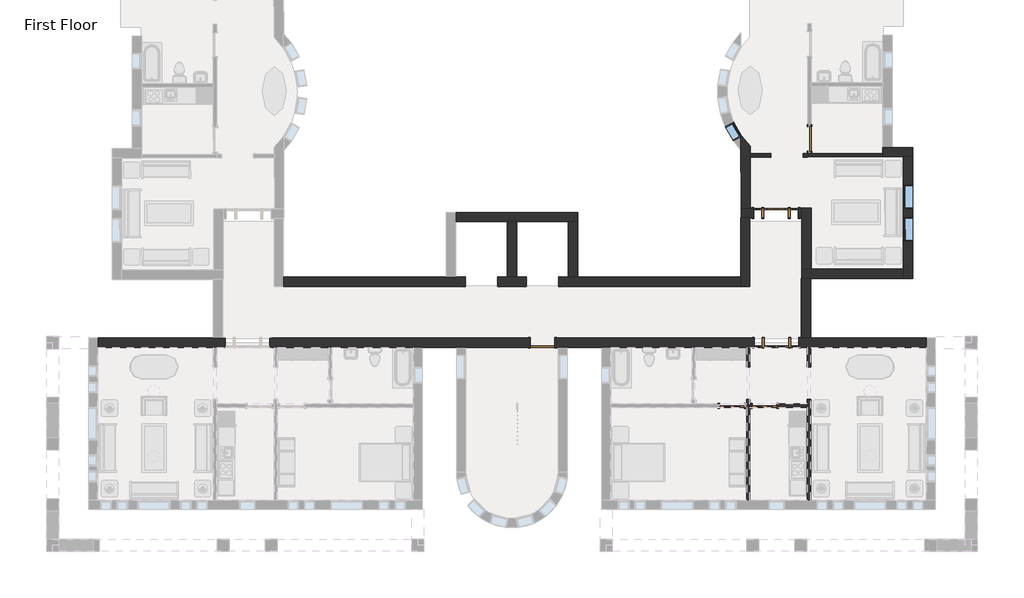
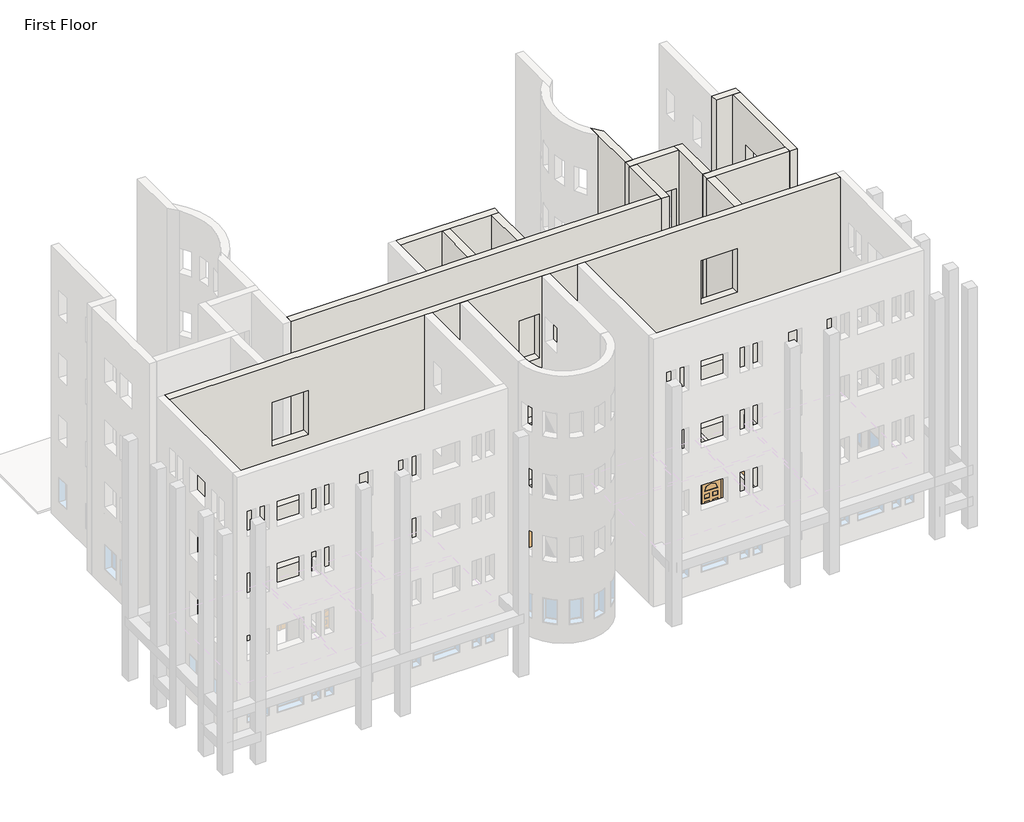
# One storey, part 6 of 21: 18 walls, 6 doors, 3 windows.
"""IFC4 building model written with IfcOpenShell, lengths in millimetres."""

from ifc_helpers import new_model, si_unit, frame, origin, origin_with_axes, place, context, project, spatial, polyline, circle_curve, outline, extrude, faceted_brep, transform, mapped, element, save
from ifc_brep_helpers import plane_surface, revolved_surface, advanced_brep
from components import door_829da954, door_2e3b4da2, door_cc5399a4, door_a1797ceb, door_dba5aa2e, door_ffdb1193, window_ed80354a, window_15c49d37

model = new_model("IFC4")

# Units and contexts
model_context = context("Model", 3, world=origin())
ifc_project = project(units=[si_unit("LENGTHUNIT", "METRE", prefix="MILLI")], contexts=[model_context])

# Site, building, storey
site = spatial("IfcSite", under=ifc_project)
building = spatial("IfcBuilding", under=site)
storey = spatial("IfcBuildingStorey", under=building, Name="First Floor", Elevation=0.0)

# Doors
placement = place(None, origin())
door_shape = door_829da954(model_context)
element("IfcDoor", 1, ObjectType="Single-Decorative 2 : 36\" x 84\"", at=placement, inside=storey, context=model_context, shape_type="MappedRepresentation", body=[
    mapped(door_shape, transform((-6669.0589563, -30331.8808133, 0.0), x_axis=(1.0, 0.0, 0.0), y_axis=(0.0, 1.0, 0.0), z_axis=(0.0, 0.0, 1.0))),
])
door_2_shape = door_2e3b4da2(model_context)
element("IfcDoor", 2, ObjectType="Single-Decorative 2 : 36\" x 84\"", at=placement, inside=storey, context=model_context, shape_type="MappedRepresentation", body=[
    mapped(door_2_shape, transform((-5449.8589563, -30331.8808133, 0.0), x_axis=(-1.0, 0.0, 0.0), y_axis=(0.0, -1.0, 0.0), z_axis=(0.0, 0.0, 1.0))),
])
door_3_shape = door_cc5399a4(model_context)
element("IfcDoor", 3, ObjectType="Single-Flush : 36\" x 84\"", at=placement, inside=storey, context=model_context, shape_type="MappedRepresentation", body=[
    mapped(door_3_shape, transform((-13792.1714563, -27958.5683133, 0.0), x_axis=(1.0, 0.0, 0.0), y_axis=(0.0, 1.0, 0.0), z_axis=(0.0, 0.0, 1.0))),
])
door_4_shape = door_a1797ceb(model_context)
element("IfcDoor", 4, ObjectType="Single-Flush : 36\" x 84\"", at=placement, inside=storey, context=model_context, shape_type="MappedRepresentation", body=[
    mapped(door_4_shape, transform((-3758.0899582, -20299.7140595, 0.0), x_axis=(0.0007588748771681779, -0.9999997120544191, 0.0), y_axis=(0.9999997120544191, 0.0007588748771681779, 0.0), z_axis=(0.0, 0.0, 1.0))),
])
door_5_shape = door_dba5aa2e(model_context)
element("IfcDoor", 5, ObjectType="Single-Raised Panel with Sidelights : 36\" x 84\"", at=placement, inside=storey, context=model_context, shape_type="MappedRepresentation", body=[
    mapped(door_5_shape, transform((-5011.6902332, -23083.5536869, 0.0), x_axis=(-0.9999997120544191, -0.0007588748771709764, 0.0), y_axis=(0.0007588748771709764, -0.9999997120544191, 0.0), z_axis=(0.0, 0.0, 1.0))),
])
door_6_shape = door_ffdb1193(model_context)
element("IfcDoor", 6, ObjectType="Single-Raised Panel with Sidelights : 36\" x 84\"", at=placement, inside=storey, context=model_context, shape_type="MappedRepresentation", body=[
    mapped(door_6_shape, transform((-4992.6589563, -27958.5683133, 0.0), x_axis=(-1.0, 0.0, 0.0), y_axis=(0.0, -1.0, 0.0), z_axis=(0.0, 0.0, 1.0))),
])

# Walls
element("IfcWall", 7, ObjectType="Exterior - Brick on Mtl. Stud", at=placement, inside=storey, context=model_context, shape_type="Brep", body=[
    faceted_brep([(-5830.8589563, -28134.7808133, 0.0), (-5995.9589563, -28134.7808133, 0.0), (-6122.9589563, -28134.7808133, 0.0), (-8042.2464563, -28134.7808133, 0.0), (-8169.2464563, -28134.7808133, 0.0), (-11217.2464563, -28134.7808133, 0.0), (-11569.6714563, -28134.7808133, 0.0), (-12853.9589563, -28134.7808133, 0.0), (-13206.3839563, -28134.7808133, 0.0), (-13334.9714563, -28134.7808133, 0.0), (-13334.9714563, -27782.3558133, 0.0), (-5830.8589563, -27782.3558133, 0.0), (-4154.4589563, -27782.3558133, 0.0), (-4062.3839563, -27782.3558133, 0.0), (-3709.9589563, -27782.3558133, 0.0), (622.3285437, -27782.3558133, 0.0), (622.3285437, -28134.7808133, 0.0), (-3709.9589563, -28134.7808133, 0.0), (-3836.9589563, -28134.7808133, 0.0), (-4154.4589563, -28134.7808133, 0.0), (-14249.3714563, -28134.7808133, 0.0), (-16663.9589563, -28134.7808133, 0.0), (-17016.3839563, -28134.7808133, 0.0), (-18300.6714563, -28134.7808133, 0.0), (-18653.0964563, -28134.7808133, 0.0), (-21701.0964563, -28134.7808133, 0.0), (-21828.0964563, -28134.7808133, 0.0), (-23747.3839563, -28134.7808133, 0.0), (-23874.3839563, -28134.7808133, 0.0), (-24039.4839563, -28134.7808133, 0.0), (-24039.4839563, -27782.3558133, 0.0), (-14249.3714563, -27782.3558133, 0.0), (-25715.8839563, -28134.7808133, 0.0), (-26033.3839563, -28134.7808133, 0.0), (-26160.3839563, -28134.7808133, 0.0), (-30492.6714563, -28134.7808133, 0.0), (-30492.6714563, -27782.3558133, 0.0), (-26160.3839563, -27782.3558133, 0.0), (-25807.9589563, -27782.3558133, 0.0), (-25715.8839563, -27782.3558133, 0.0), (622.3285437, -27782.3558133, 13106.4), (-3709.9589563, -27782.3558133, 13106.4), (-4062.3839563, -27782.3558133, 13106.4), (-25807.9589563, -27782.3558133, 13106.4), (-26160.3839563, -27782.3558133, 13106.4), (-30492.6714563, -27782.3558133, 13106.4), (-30492.6714563, -28134.7808133, 13106.4), (-18653.0964563, -28134.7808133, 13106.4), (-18300.6714563, -28134.7808133, 13106.4), (-17016.3839563, -28134.7808133, 13106.4), (-16663.9589563, -28134.7808133, 13106.4), (-13206.3839563, -28134.7808133, 13106.4), (-12853.9589563, -28134.7808133, 13106.4), (-11569.6714563, -28134.7808133, 13106.4), (-11217.2464563, -28134.7808133, 13106.4), (622.3285437, -28134.7808133, 13106.4), (-24039.4839563, -27782.3558133, 2133.6), (-25715.8839563, -27782.3558133, 2133.6), (-4154.4589563, -27782.3558133, 2133.6), (-5830.8589563, -27782.3558133, 2133.6), (-13334.9714563, -27782.3558133, 2133.6), (-14249.3714563, -27782.3558133, 2133.6), (-25715.8839563, -27782.3558133, 6096.0), (-24039.4839563, -27782.3558133, 6096.0), (-24039.4839563, -27782.3558133, 8229.6), (-25715.8839563, -27782.3558133, 8229.6), (-25715.8839563, -27782.3558133, 3048.0), (-24039.4839563, -27782.3558133, 3048.0), (-24039.4839563, -27782.3558133, 5181.6), (-25715.8839563, -27782.3558133, 5181.6), (-25715.8839563, -27782.3558133, 9144.0), (-24039.4839563, -27782.3558133, 9144.0), (-24039.4839563, -27782.3558133, 11277.6), (-25715.8839563, -27782.3558133, 11277.6), (-14249.3714563, -27782.3558133, 6096.0), (-13334.9714563, -27782.3558133, 6096.0), (-13334.9714563, -27782.3558133, 8229.6), (-14249.3714563, -27782.3558133, 8229.6), (-14249.3714563, -27782.3558133, 3048.0), (-13334.9714563, -27782.3558133, 3048.0), (-13334.9714563, -27782.3558133, 5181.6), (-14249.3714563, -27782.3558133, 5181.6), (-14249.3714563, -27782.3558133, 9144.0), (-13334.9714563, -27782.3558133, 9144.0), (-13334.9714563, -27782.3558133, 11277.6), (-14249.3714563, -27782.3558133, 11277.6), (-4154.4589563, -27782.3558133, 6096.0), (-4154.4589563, -27782.3558133, 8229.6), (-5830.8589563, -27782.3558133, 8229.6), (-5830.8589563, -27782.3558133, 6096.0), (-4154.4589563, -27782.3558133, 3048.0), (-4154.4589563, -27782.3558133, 5181.6), (-5830.8589563, -27782.3558133, 5181.6), (-5830.8589563, -27782.3558133, 3048.0), (-4154.4589563, -27782.3558133, 9144.0), (-4154.4589563, -27782.3558133, 11277.6), (-5830.8589563, -27782.3558133, 11277.6), (-5830.8589563, -27782.3558133, 9144.0), (-24039.4839563, -28134.7808133, 2133.6), (-14249.3714563, -28134.7808133, 2133.6), (-13334.9714563, -28134.7808133, 2133.6), (-5830.8589563, -28134.7808133, 2133.6), (-4154.4589563, -28134.7808133, 2133.6), (-25715.8839563, -28134.7808133, 2133.6), (-25715.8839563, -28134.7808133, 6096.0), (-25715.8839563, -28134.7808133, 8229.6), (-24039.4839563, -28134.7808133, 8229.6), (-24039.4839563, -28134.7808133, 6096.0), (-25715.8839563, -28134.7808133, 3048.0), (-25715.8839563, -28134.7808133, 5181.6), (-24039.4839563, -28134.7808133, 5181.6), (-24039.4839563, -28134.7808133, 3048.0), (-25715.8839563, -28134.7808133, 9144.0), (-25715.8839563, -28134.7808133, 11277.6), (-24039.4839563, -28134.7808133, 11277.6), (-24039.4839563, -28134.7808133, 9144.0), (-14249.3714563, -28134.7808133, 6096.0), (-14249.3714563, -28134.7808133, 8229.6), (-13334.9714563, -28134.7808133, 8229.6), (-13334.9714563, -28134.7808133, 6096.0), (-14249.3714563, -28134.7808133, 3048.0), (-14249.3714563, -28134.7808133, 5181.6), (-13334.9714563, -28134.7808133, 5181.6), (-13334.9714563, -28134.7808133, 3048.0), (-14249.3714563, -28134.7808133, 9144.0), (-14249.3714563, -28134.7808133, 11277.6), (-13334.9714563, -28134.7808133, 11277.6), (-13334.9714563, -28134.7808133, 9144.0), (-4154.4589563, -28134.7808133, 6096.0), (-5830.8589563, -28134.7808133, 6096.0), (-5830.8589563, -28134.7808133, 8229.6), (-4154.4589563, -28134.7808133, 8229.6), (-4154.4589563, -28134.7808133, 3048.0), (-5830.8589563, -28134.7808133, 3048.0), (-5830.8589563, -28134.7808133, 5181.6), (-4154.4589563, -28134.7808133, 5181.6), (-4154.4589563, -28134.7808133, 9144.0), (-5830.8589563, -28134.7808133, 9144.0), (-5830.8589563, -28134.7808133, 11277.6), (-4154.4589563, -28134.7808133, 11277.6)], [[[0, 1, 2, 3, 4, 5, 6, 7, 8, 9, 10, 11]], [[12, 13, 14, 15, 16, 17, 18, 19]], [[20, 21, 22, 23, 24, 25, 26, 27, 28, 29, 30, 31]], [[32, 33, 34, 35, 36, 37, 38, 39]], [[40, 41, 42, 43, 44, 45, 46, 47, 48, 49, 50, 51, 52, 53, 54, 55]], [[31, 30, 56, 57, 39, 38, 37, 36, 45, 44, 43, 42, 41, 40, 15, 14, 13, 12, 58, 59, 11, 10, 60, 61], [62, 63, 64, 65], [66, 67, 68, 69], [70, 71, 72, 73], [74, 75, 76, 77], [78, 79, 80, 81], [82, 83, 84, 85], [86, 87, 88, 89], [90, 91, 92, 93], [94, 95, 96, 97]], [[98, 29, 28, 27, 26, 25, 24, 23, 22, 21, 20, 99, 100, 9, 8, 7, 6, 5, 4, 3, 2, 1, 0, 101, 102, 19, 18, 17, 16, 55, 54, 53, 52, 51, 50, 49, 48, 47, 46, 35, 34, 33, 32, 103], [104, 105, 106, 107], [108, 109, 110, 111], [112, 113, 114, 115], [116, 117, 118, 119], [120, 121, 122, 123], [124, 125, 126, 127], [128, 129, 130, 131], [132, 133, 134, 135], [136, 137, 138, 139]], [[15, 40, 55, 16]], [[45, 36, 35, 46]], [[101, 0, 11, 59]], [[102, 101, 59, 58]], [[19, 102, 58, 12]], [[60, 10, 9, 100]], [[61, 60, 100, 99]], [[31, 61, 99, 20]], [[56, 30, 29, 98]], [[57, 56, 98, 103]], [[39, 57, 103, 32]], [[63, 62, 104, 107]], [[64, 63, 107, 106]], [[65, 64, 106, 105]], [[62, 65, 105, 104]], [[67, 66, 108, 111]], [[68, 67, 111, 110]], [[69, 68, 110, 109]], [[66, 69, 109, 108]], [[71, 70, 112, 115]], [[72, 71, 115, 114]], [[73, 72, 114, 113]], [[70, 73, 113, 112]], [[75, 74, 116, 119]], [[76, 75, 119, 118]], [[77, 76, 118, 117]], [[74, 77, 117, 116]], [[79, 78, 120, 123]], [[80, 79, 123, 122]], [[81, 80, 122, 121]], [[78, 81, 121, 120]], [[83, 82, 124, 127]], [[84, 83, 127, 126]], [[85, 84, 126, 125]], [[82, 85, 125, 124]], [[129, 128, 86, 89]], [[130, 129, 89, 88]], [[131, 130, 88, 87]], [[128, 131, 87, 86]], [[133, 132, 90, 93]], [[134, 133, 93, 92]], [[135, 134, 92, 91]], [[132, 135, 91, 90]], [[137, 136, 94, 97]], [[138, 137, 97, 96]], [[139, 138, 96, 95]], [[136, 139, 95, 94]]]),
])
element("IfcWall", 8, ObjectType="Exterior - Brick on Mtl. Stud", at=placement, inside=storey, context=model_context, shape_type="Brep", body=[
    faceted_brep([(-17044.9589563, -23410.3808133, 0.0), (-15111.3839563, -23410.3808133, 0.0), (-14758.9589563, -23410.3808133, 0.0), (-12825.3839563, -23410.3808133, 0.0), (-12472.9589563, -23410.3808133, 0.0), (-12472.9589563, -23410.3808133, 13106.4), (-12825.3839563, -23410.3808133, 13106.4), (-14758.9589563, -23410.3808133, 13106.4), (-15111.3839563, -23410.3808133, 13106.4), (-17044.9589563, -23410.3808133, 13106.4), (-17044.9589563, -23057.9558133, 0.0), (-17044.9589563, -23057.9558133, 13106.4), (-12472.9589563, -23057.9558133, 13106.4), (-12472.9589563, -23057.9558133, 0.0)], [[[0, 1, 2, 3, 4, 5, 6, 7, 8, 9]], [[10, 11, 12, 13]], [[4, 3, 2, 1, 0, 10, 13]], [[9, 8, 7, 6, 5, 12, 11]], [[5, 4, 13, 12]], [[0, 9, 11, 10]]]),
])
element("IfcWall", 9, ObjectType="Exterior - Brick on Mtl. Stud", at=placement, inside=storey, context=model_context, shape_type="SweptSolid", body=[
    extrude(outline(polyline([(-12825.3839563, -25496.3558133), (-12825.3839563, -23410.3808133), (-12472.9589563, -23410.3808133), (-12472.9589563, -25496.3558133), (-12825.3839563, -25496.3558133)])), origin_with_axes(), (0.0, 0.0, 1.0), 13106.4),
])
element("IfcWall", 10, ObjectType="Exterior - Brick on Mtl. Stud", at=placement, inside=storey, context=model_context, shape_type="Brep", body=[
    faceted_brep([(-23521.9589563, -25496.3558133, 0.0), (-17397.3839563, -25496.3558133, 0.0), (-17044.9589563, -25496.3558133, 0.0), (-16687.7714563, -25496.3558133, 0.0), (-16687.7714563, -25848.7808133, 0.0), (-23521.9589563, -25848.7808133, 0.0), (-15468.5714563, -25496.3558133, 0.0), (-15111.3839563, -25496.3558133, 0.0), (-14758.9589563, -25496.3558133, 0.0), (-14401.7714563, -25496.3558133, 0.0), (-14401.7714563, -25848.7808133, 0.0), (-15468.5714563, -25848.7808133, 0.0), (-13182.5714563, -25496.3558133, 0.0), (-12825.3839563, -25496.3558133, 0.0), (-12472.9589563, -25496.3558133, 0.0), (-6348.3839563, -25496.3558133, 0.0), (-6348.3839563, -25848.7808133, 0.0), (-13182.5714563, -25848.7808133, 0.0), (-23521.9589563, -25848.7808133, 13106.4), (-6348.3839563, -25848.7808133, 13106.4), (-6348.3839563, -25496.3558133, 13106.4), (-12472.9589563, -25496.3558133, 13106.4), (-12825.3839563, -25496.3558133, 13106.4), (-14758.9589563, -25496.3558133, 13106.4), (-15111.3839563, -25496.3558133, 13106.4), (-17044.9589563, -25496.3558133, 13106.4), (-17397.3839563, -25496.3558133, 13106.4), (-23521.9589563, -25496.3558133, 13106.4), (-14401.7714563, -25848.7808133, 2133.6), (-13182.5714563, -25848.7808133, 2133.6), (-16687.7714563, -25848.7808133, 2133.6), (-15468.5714563, -25848.7808133, 2133.6), (-13182.5714563, -25848.7808133, 8229.6), (-13182.5714563, -25848.7808133, 6096.0), (-14401.7714563, -25848.7808133, 6096.0), (-14401.7714563, -25848.7808133, 8229.6), (-15468.5714563, -25848.7808133, 8229.6), (-15468.5714563, -25848.7808133, 6096.0), (-16687.7714563, -25848.7808133, 6096.0), (-16687.7714563, -25848.7808133, 8229.6), (-13182.5714563, -25848.7808133, 5181.6), (-13182.5714563, -25848.7808133, 3048.0), (-14401.7714563, -25848.7808133, 3048.0), (-14401.7714563, -25848.7808133, 5181.6), (-15468.5714563, -25848.7808133, 5181.6), (-15468.5714563, -25848.7808133, 3048.0), (-16687.7714563, -25848.7808133, 3048.0), (-16687.7714563, -25848.7808133, 5181.6), (-13182.5714563, -25848.7808133, 11277.6), (-13182.5714563, -25848.7808133, 9144.0), (-14401.7714563, -25848.7808133, 9144.0), (-14401.7714563, -25848.7808133, 11277.6), (-15468.5714563, -25848.7808133, 11277.6), (-15468.5714563, -25848.7808133, 9144.0), (-16687.7714563, -25848.7808133, 9144.0), (-16687.7714563, -25848.7808133, 11277.6), (-14401.7714563, -25496.3558133, 2133.6), (-15468.5714563, -25496.3558133, 2133.6), (-16687.7714563, -25496.3558133, 2133.6), (-13182.5714563, -25496.3558133, 2133.6), (-13182.5714563, -25496.3558133, 8229.6), (-14401.7714563, -25496.3558133, 8229.6), (-14401.7714563, -25496.3558133, 6096.0), (-13182.5714563, -25496.3558133, 6096.0), (-15468.5714563, -25496.3558133, 8229.6), (-16687.7714563, -25496.3558133, 8229.6), (-16687.7714563, -25496.3558133, 6096.0), (-15468.5714563, -25496.3558133, 6096.0), (-13182.5714563, -25496.3558133, 5181.6), (-14401.7714563, -25496.3558133, 5181.6), (-14401.7714563, -25496.3558133, 3048.0), (-13182.5714563, -25496.3558133, 3048.0), (-15468.5714563, -25496.3558133, 5181.6), (-16687.7714563, -25496.3558133, 5181.6), (-16687.7714563, -25496.3558133, 3048.0), (-15468.5714563, -25496.3558133, 3048.0), (-13182.5714563, -25496.3558133, 11277.6), (-14401.7714563, -25496.3558133, 11277.6), (-14401.7714563, -25496.3558133, 9144.0), (-13182.5714563, -25496.3558133, 9144.0), (-15468.5714563, -25496.3558133, 11277.6), (-16687.7714563, -25496.3558133, 11277.6), (-16687.7714563, -25496.3558133, 9144.0), (-15468.5714563, -25496.3558133, 9144.0)], [[[0, 1, 2, 3, 4, 5]], [[6, 7, 8, 9, 10, 11]], [[12, 13, 14, 15, 16, 17]], [[18, 19, 20, 21, 22, 23, 24, 25, 26, 27]], [[11, 10, 28, 29, 17, 16, 19, 18, 5, 4, 30, 31], [32, 33, 34, 35], [36, 37, 38, 39], [40, 41, 42, 43], [44, 45, 46, 47], [48, 49, 50, 51], [52, 53, 54, 55]], [[56, 9, 8, 7, 6, 57, 58, 3, 2, 1, 0, 27, 26, 25, 24, 23, 22, 21, 20, 15, 14, 13, 12, 59], [60, 61, 62, 63], [64, 65, 66, 67], [68, 69, 70, 71], [72, 73, 74, 75], [76, 77, 78, 79], [80, 81, 82, 83]], [[19, 16, 15, 20]], [[5, 18, 27, 0]], [[11, 31, 57, 6]], [[30, 4, 3, 58]], [[31, 30, 58, 57]], [[17, 29, 59, 12]], [[28, 10, 9, 56]], [[29, 28, 56, 59]], [[33, 32, 60, 63]], [[34, 33, 63, 62]], [[35, 34, 62, 61]], [[32, 35, 61, 60]], [[37, 36, 64, 67]], [[38, 37, 67, 66]], [[39, 38, 66, 65]], [[36, 39, 65, 64]], [[41, 40, 68, 71]], [[42, 41, 71, 70]], [[43, 42, 70, 69]], [[40, 43, 69, 68]], [[45, 44, 72, 75]], [[46, 45, 75, 74]], [[47, 46, 74, 73]], [[44, 47, 73, 72]], [[49, 48, 76, 79]], [[50, 49, 79, 78]], [[51, 50, 78, 77]], [[48, 51, 77, 76]], [[53, 52, 80, 83]], [[54, 53, 83, 82]], [[55, 54, 82, 81]], [[52, 55, 81, 80]]]),
])
element("IfcWall", 11, ObjectType="Exterior - Brick on Mtl. Stud", at=placement, inside=storey, context=model_context, shape_type="SweptSolid", body=[
    extrude(outline(polyline([(-15111.3839563, -25496.3558133), (-15111.3839563, -23410.3808133), (-14758.9589563, -23410.3808133), (-14758.9589563, -25496.3558133), (-15111.3839563, -25496.3558133)])), origin_with_axes(), (0.0, 0.0, 1.0), 13106.4),
])
element("IfcWall", 12, ObjectType="Exterior - Brick on Mtl. Stud", at=placement, inside=storey, context=model_context, shape_type="Brep", body=[
    faceted_brep([(-5995.9589563, -25848.7808133, 0.0), (-5995.9589563, -23260.5131746, 0.0), (-5995.9589563, -23260.5131746, 13106.4), (-5995.9589563, -25848.7808133, 13106.4), (-6348.3839563, -25848.7808133, 0.0), (-6348.3839563, -25848.7808133, 13106.4), (-6348.3839563, -25496.3558133, 13106.4), (-6348.3839563, -23260.7806212, 13106.4), (-6348.3839563, -23260.7806212, 0.0), (-6348.3839563, -25496.3558133, 0.0), (-6330.7686301, -23260.7672534, 0.0), (-6330.7686301, -23260.7672534, 13106.4)], [[[0, 1, 2, 3]], [[4, 5, 6, 7, 8, 9]], [[1, 0, 4, 9, 8, 10]], [[3, 2, 11, 7, 6, 5]], [[0, 3, 5, 4]], [[2, 1, 10, 8, 7, 11]]]),
])
element("IfcWall", 13, ObjectType="Exterior - Brick on Mtl. Stud", at=placement, inside=storey, context=model_context, shape_type="Brep", body=[
    faceted_brep([(-4062.3839563, -25545.046491, 0.0), (-4062.3839563, -27782.3558133, 0.0), (-4062.3839563, -27782.3558133, 13106.4), (-4062.3839563, -25545.046491, 13106.4), (-3709.9589563, -25544.7790444, 0.0), (-3709.9589563, -25544.7790444, 13106.4), (-3709.9589563, -27782.3558133, 13106.4), (-3709.9589563, -27782.3558133, 0.0), (-4043.0345004, -25545.0318071, 0.0), (-4043.0345004, -25545.0318071, 13106.4)], [[[0, 1, 2, 3]], [[4, 5, 6, 7]], [[1, 0, 8, 4, 7]], [[3, 2, 6, 5, 9]], [[2, 1, 7, 6]], [[0, 3, 9, 5, 4, 8]]]),
])
element("IfcWall", 14, ObjectType="Exterior - Brick on Mtl. Stud", at=placement, inside=storey, context=model_context, shape_type="Brep", body=[
    faceted_brep([(-233.303044, -25189.7155953, 0.0), (-3690.8770484, -25192.3394621, 0.0), (-4043.3019469, -25192.6069086, 0.0), (-4043.3019469, -25192.6069086, 13106.4), (-3690.8770484, -25192.3394621, 13106.4), (-233.303044, -25189.7155953, 13106.4), (-233.0355975, -25542.1404939, 0.0), (-233.0355975, -25542.1404939, 13106.4), (-3709.9589563, -25544.7790444, 13106.4), (-4043.0345004, -25545.0318071, 13106.4), (-4043.0345004, -25545.0318071, 0.0), (-3709.9589563, -25544.7790444, 0.0)], [[[0, 1, 2, 3, 4, 5]], [[6, 7, 8, 9, 10, 11]], [[2, 1, 0, 6, 11, 10]], [[5, 4, 3, 9, 8, 7]], [[3, 2, 10, 9]], [[0, 5, 7, 6]]]),
])
element("IfcWall", 15, ObjectType="Exterior - Brick on Mtl. Stud", at=placement, inside=storey, context=model_context, shape_type="Brep", body=[
    faceted_brep([(-3690.8770484, -25192.3394621, 0.0), (-3692.6118363, -22906.3401204, 0.0), (-3692.6118363, -22906.3401204, 13106.4), (-3690.8770484, -25192.3394621, 13106.4), (-4043.3019469, -25192.6069086, 0.0), (-4043.3019469, -25192.6069086, 13106.4), (-4044.7692884, -23259.0324654, 13106.4), (-4045.0367349, -22906.6075669, 13106.4), (-4045.0367349, -22906.6075669, 0.0), (-4044.7692884, -23259.0324654, 0.0)], [[[0, 1, 2, 3]], [[4, 5, 6, 7, 8, 9]], [[1, 0, 4, 9, 8]], [[3, 2, 7, 6, 5]], [[2, 1, 8, 7]], [[0, 3, 5, 4]]]),
])
element("IfcWall", 16, ObjectType="Exterior - Brick on Mtl. Stud", at=placement, inside=storey, context=model_context, shape_type="Brep", body=[
    faceted_brep([(-6331.0360766, -22908.3423548, 0.0), (-5978.6111781, -22908.0749084, 0.0), (-5850.0237151, -22907.9773265, 0.0), (-5849.7562686, -23260.4022251, 0.0), (-5995.9589563, -23260.5131746, 0.0), (-6330.7686301, -23260.7672534, 0.0), (-4173.6241978, -22906.7051487, 0.0), (-4045.0367349, -22906.6075669, 0.0), (-4044.7692884, -23259.0324654, 0.0), (-4173.3567514, -23259.1300472, 0.0), (-4045.0367349, -22906.6075669, 13106.4), (-5978.6111781, -22908.0749084, 13106.4), (-6331.0360766, -22908.3423548, 13106.4), (-6330.7686301, -23260.7672534, 13106.4), (-5995.9589563, -23260.5131746, 13106.4), (-4044.7692884, -23259.0324654, 13106.4), (-5850.0237151, -22907.9773265, 2133.6), (-4173.6241978, -22906.7051487, 2133.6), (-4173.6241978, -22906.7051487, 6096.0), (-4173.6241978, -22906.7051487, 8229.6), (-5850.0237151, -22907.9773265, 8229.6), (-5850.0237151, -22907.9773265, 6096.0), (-4173.6241978, -22906.7051487, 3048.0), (-4173.6241978, -22906.7051487, 5181.6), (-5850.0237151, -22907.9773265, 5181.6), (-5850.0237151, -22907.9773265, 3048.0), (-4173.6241978, -22906.7051487, 9144.0), (-4173.6241978, -22906.7051487, 11277.6), (-5850.0237151, -22907.9773265, 11277.6), (-5850.0237151, -22907.9773265, 9144.0), (-5849.7562686, -23260.4022251, 2133.6), (-4173.3567514, -23259.1300472, 2133.6), (-4173.3567514, -23259.1300472, 6096.0), (-5849.7562686, -23260.4022251, 6096.0), (-5849.7562686, -23260.4022251, 8229.6), (-4173.3567514, -23259.1300472, 8229.6), (-4173.3567514, -23259.1300472, 3048.0), (-5849.7562686, -23260.4022251, 3048.0), (-5849.7562686, -23260.4022251, 5181.6), (-4173.3567514, -23259.1300472, 5181.6), (-4173.3567514, -23259.1300472, 9144.0), (-5849.7562686, -23260.4022251, 9144.0), (-5849.7562686, -23260.4022251, 11277.6), (-4173.3567514, -23259.1300472, 11277.6)], [[[0, 1, 2, 3, 4, 5]], [[6, 7, 8, 9]], [[10, 11, 12, 13, 14, 15]], [[16, 2, 1, 0, 12, 11, 10, 7, 6, 17], [18, 19, 20, 21], [22, 23, 24, 25], [26, 27, 28, 29]], [[5, 4, 3, 30, 31, 9, 8, 15, 14, 13], [32, 33, 34, 35], [36, 37, 38, 39], [40, 41, 42, 43]], [[7, 10, 15, 8]], [[12, 0, 5, 13]], [[30, 3, 2, 16]], [[31, 30, 16, 17]], [[9, 31, 17, 6]], [[33, 32, 18, 21]], [[34, 33, 21, 20]], [[35, 34, 20, 19]], [[32, 35, 19, 18]], [[37, 36, 22, 25]], [[38, 37, 25, 24]], [[39, 38, 24, 23]], [[36, 39, 23, 22]], [[41, 40, 26, 29]], [[42, 41, 29, 28]], [[43, 42, 28, 27]], [[40, 43, 27, 26]]]),
])
element("IfcWall", 17, ObjectType="Exterior - Brick on Mtl. Stud", at=placement, inside=storey, context=model_context, shape_type="AdvancedBrep", body=[
    advanced_brep(
    [(-5980.3834569, -20572.6724285, 0.0), (-5980.1748967, -20847.5005017, 0.0), (-5980.0785196, -20974.5004651, 0.0), (-5978.6111781, -22908.0749084, 0.0), (-6331.0360766, -22908.3423548, 0.0), (-6332.6990767, -20716.9407198, 0.0), (-6333.1224489, -20159.0462963, 0.0), (-5978.6111781, -22908.0749084, 13106.4), (-5980.3834569, -20572.6724285, 13106.4), (-6333.1224489, -20159.0462963, 13106.4), (-6332.6990767, -20716.9407198, 13106.4), (-6331.0360766, -22908.3423548, 13106.4), (-5980.3834569, -20572.6724285, 3048.0), (-5980.3834569, -20572.6724285, 6096.0), (-5980.3834569, -20572.6724285, 9144.0), (-5980.3834569, -20572.6724285, 12192.0), (-6333.1224489, -20159.0462963, 11277.6), (-6333.0850453, -20208.33453, 11277.6), (-6333.0850453, -20208.33453, 10058.4), (-6333.1224489, -20159.0462963, 10058.4), (-6333.1224489, -20159.0462963, 8229.6), (-6333.0850453, -20208.33453, 8229.6), (-6333.0850453, -20208.33453, 7010.4), (-6333.1224489, -20159.0462963, 7010.4), (-6333.1224489, -20159.0462963, 5181.6), (-6333.0850453, -20208.33453, 5181.6), (-6333.0850453, -20208.33453, 3962.4), (-6333.1224489, -20159.0462963, 3962.4), (-6333.1224489, -20159.0462963, 2133.6), (-6333.0850453, -20208.33453, 2133.6), (-6333.0850453, -20208.33453, 914.4), (-6333.1224489, -20159.0462963, 914.4), (-6327.560395, -20166.9535794, 914.4), (-6327.560395, -20166.9535794, 2133.6), (-6327.560395, -20166.9535794, 3962.4), (-6327.560395, -20166.9535794, 5181.6), (-6327.560395, -20166.9535794, 7010.4), (-6327.560395, -20166.9535794, 8229.6), (-6327.560395, -20166.9535794, 10058.4), (-6327.560395, -20166.9535794, 11277.6), (-6311.0813875, -20195.7370966, 914.4), (-6311.0813875, -20195.7370966, 2133.6), (-6311.0813875, -20195.7370966, 10058.4), (-6311.0813875, -20195.7370966, 11277.6), (-6311.0813875, -20195.7370966, 3962.4), (-6311.0813875, -20195.7370966, 5181.6), (-6311.0813875, -20195.7370966, 7010.4), (-6311.0813875, -20195.7370966, 8229.6)],
    [
        (0, 1),
        (1, 2),
        (2, 3),
        (3, 4),
        (4, 5),
        (5, 6),
        (6, 0, circle_curve(frame((-3981.4527218, -18510.7705488, 0.0), z_axis=(0.0, 0.0, 1.0), x_axis=(0.0007588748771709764, -0.9999997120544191, 0.0)), 2871.7875)),
        (7, 8),
        (8, 9, circle_curve(frame((-3981.4527218, -18510.7705488, 13106.4), z_axis=(0.0, 0.0, -1.0), x_axis=(0.0007588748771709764, -0.9999997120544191, 0.0)), 2871.7875)),
        (9, 10),
        (10, 11),
        (11, 7),
        (0, 12),
        (12, 13),
        (13, 14),
        (14, 15),
        (15, 8),
        (7, 3),
        (4, 11),
        (9, 16),
        (16, 17),
        (17, 18),
        (18, 19),
        (19, 20),
        (20, 21),
        (21, 22),
        (22, 23),
        (23, 24),
        (24, 25),
        (25, 26),
        (26, 27),
        (27, 28),
        (28, 29),
        (29, 30),
        (30, 31),
        (31, 6),
        (31, 32, circle_curve(frame((-3981.4527218, -18510.7705488, 914.4), z_axis=(0.0, 0.0, 1.0), x_axis=(0.0007588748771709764, -0.9999997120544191, 0.0)), 2871.7875)),
        (32, 33),
        (33, 28, circle_curve(frame((-3981.4527218, -18510.7705488, 2133.6), z_axis=(0.0, 0.0, -1.0), x_axis=(0.0007588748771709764, -0.9999997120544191, 0.0)), 2871.7875)),
        (27, 34, circle_curve(frame((-3981.4527218, -18510.7705488, 3962.4), z_axis=(0.0, 0.0, 1.0), x_axis=(0.0007588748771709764, -0.9999997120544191, 0.0)), 2871.7875)),
        (34, 35),
        (35, 24, circle_curve(frame((-3981.4527218, -18510.7705488, 5181.6), z_axis=(0.0, 0.0, -1.0), x_axis=(0.0007588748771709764, -0.9999997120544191, 0.0)), 2871.7875)),
        (23, 36, circle_curve(frame((-3981.4527218, -18510.7705488, 7010.4), z_axis=(0.0, 0.0, 1.0), x_axis=(0.0007588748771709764, -0.9999997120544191, 0.0)), 2871.7875)),
        (36, 37),
        (37, 20, circle_curve(frame((-3981.4527218, -18510.7705488, 8229.6), z_axis=(0.0, 0.0, -1.0), x_axis=(0.0007588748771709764, -0.9999997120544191, 0.0)), 2871.7875)),
        (19, 38, circle_curve(frame((-3981.4527218, -18510.7705488, 10058.4), z_axis=(0.0, 0.0, 1.0), x_axis=(0.0007588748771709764, -0.9999997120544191, 0.0)), 2871.7875)),
        (38, 39),
        (39, 16, circle_curve(frame((-3981.4527218, -18510.7705488, 11277.6), z_axis=(0.0, 0.0, -1.0), x_axis=(0.0007588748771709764, -0.9999997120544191, 0.0)), 2871.7875)),
        (40, 41),
        (41, 33),
        (32, 40),
        (30, 40),
        (29, 41),
        (42, 43),
        (43, 39),
        (38, 42),
        (18, 42),
        (17, 43),
        (44, 45),
        (45, 35),
        (34, 44),
        (26, 44),
        (25, 45),
        (46, 47),
        (47, 37),
        (36, 46),
        (22, 46),
        (21, 47),
    ],
    [
        plane_surface(frame((-5978.4774549, -23084.2873576, 0.0), z_axis=(0.0, 0.0, -1.0), x_axis=(-0.999999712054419, -0.0007588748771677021, 0.0))),
        plane_surface(frame((-5980.3278954, -20645.8880597, 13106.4), z_axis=(0.0, 0.0, 1.0), x_axis=(-0.999999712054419, -0.0007588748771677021, 0.0))),
        plane_surface(frame((-5978.4774549, -23084.2873576, 0.0), z_axis=(0.9999997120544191, 0.0007588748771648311, 0.0), x_axis=(-0.0007588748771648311, 0.9999997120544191, 0.0))),
        plane_surface(frame((-6330.9023534, -23084.5548041, 0.0), z_axis=(-0.9999997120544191, -0.0007588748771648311, 0.0), x_axis=(0.0007588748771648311, -0.9999997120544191, 0.0))),
        revolved_surface(polyline([(-3979.273394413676, -21382.557221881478, 0.0), (-3979.273394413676, -21382.557221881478, 13106.4)]), (-3981.4527218, -18510.7705488, 0.0), (0.0, 0.0, -1.0)),
        plane_surface(frame((-3868.8242856, -22906.4738436, 0.0), z_axis=(0.0007588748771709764, -0.9999997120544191, 0.0), x_axis=(-0.9999997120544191, -0.0007588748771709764, 0.0))),
        plane_surface(frame((-6613.9610289, -19666.7039381, 2133.6), z_axis=(-0.8678365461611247, -0.4968498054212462, 0.0), x_axis=(0.0, 0.0, 1.0))),
        plane_surface(frame((-6918.4370952, -19841.0211813, 914.4), z_axis=(0.0, 0.0, 1.0), x_axis=(0.8678365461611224, 0.49684980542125, 0.0))),
        plane_surface(frame((-6615.5574539, -20370.0543399, 914.4), z_axis=(-0.49684980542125, 0.8678365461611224, 0.0), x_axis=(0.8678365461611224, 0.49684980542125, 0.0))),
        plane_surface(frame((-6615.5574539, -20370.0543399, 2133.6), z_axis=(0.0, 0.0, -1.0), x_axis=(0.8678365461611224, 0.49684980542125, 0.0))),
        plane_surface(frame((-6613.9610289, -19666.7039381, 11277.6), z_axis=(-0.8678365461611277, -0.4968498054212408, 0.0), x_axis=(0.0, 0.0, 1.0))),
        plane_surface(frame((-6918.4370952, -19841.0211813, 10058.4), z_axis=(0.0, 0.0, 1.0000000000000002), x_axis=(0.8678365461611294, 0.4968498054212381, 0.0))),
        plane_surface(frame((-6615.5574539, -20370.0543399, 10058.4), z_axis=(-0.4968498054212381, 0.8678365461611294, 0.0), x_axis=(0.8678365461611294, 0.4968498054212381, 0.0))),
        plane_surface(frame((-6615.5574539, -20370.0543399, 11277.6), z_axis=(0.0, 0.0, -1.0000000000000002), x_axis=(0.8678365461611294, 0.4968498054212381, 0.0))),
        plane_surface(frame((-6613.9610289, -19666.7039381, 5181.6), z_axis=(-0.8678365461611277, -0.4968498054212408, 0.0), x_axis=(0.0, 0.0, 1.0))),
        plane_surface(frame((-6918.4370952, -19841.0211813, 3962.4), z_axis=(0.0, 0.0, 1.0000000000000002), x_axis=(0.8678365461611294, 0.4968498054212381, 0.0))),
        plane_surface(frame((-6615.5574539, -20370.0543399, 3962.4), z_axis=(-0.4968498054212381, 0.8678365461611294, 0.0), x_axis=(0.8678365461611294, 0.4968498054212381, 0.0))),
        plane_surface(frame((-6615.5574539, -20370.0543399, 5181.6), z_axis=(0.0, 0.0, -1.0000000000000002), x_axis=(0.8678365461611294, 0.4968498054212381, 0.0))),
        plane_surface(frame((-6613.9610289, -19666.7039381, 8229.6), z_axis=(-0.8678365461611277, -0.4968498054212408, 0.0), x_axis=(0.0, 0.0, 1.0))),
        plane_surface(frame((-6918.4370952, -19841.0211813, 7010.4), z_axis=(0.0, 0.0, 1.0000000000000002), x_axis=(0.8678365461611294, 0.4968498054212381, 0.0))),
        plane_surface(frame((-6615.5574539, -20370.0543399, 7010.4), z_axis=(-0.4968498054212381, 0.8678365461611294, 0.0), x_axis=(0.8678365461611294, 0.4968498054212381, 0.0))),
        plane_surface(frame((-6615.5574539, -20370.0543399, 8229.6), z_axis=(0.0, 0.0, -1.0000000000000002), x_axis=(0.8678365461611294, 0.4968498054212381, 0.0))),
    ],
    [
        (0, [[1, 2, 3, 4, 5, 6, 7]]),
        (1, [[8, 9, 10, 11, 12]]),
        (2, [[-3, -2, -1, 13, 14, 15, 16, 17, -8, 18]]),
        (3, [[-6, -5, 19, -11, -10, 20, 21, 22, 23, 24, 25, 26, 27, 28, 29, 30, 31, 32, 33, 34, 35, 36]]),
        (4, [[-7, -36, 37, 38, 39, -32, 40, 41, 42, -28, 43, 44, 45, -24, 46, 47, 48, -20, -9, -17, -16, -15, -14, -13]]),
        (5, [[-18, -12, -19, -4]]),
        (6, [[49, 50, -38, 51]]),
        (7, [[52, -51, -37, -35]]),
        (8, [[-49, -52, -34, 53]]),
        (9, [[-53, -33, -39, -50]]),
        (10, [[54, 55, -47, 56]]),
        (11, [[57, -56, -46, -23]]),
        (12, [[-54, -57, -22, 58]]),
        (13, [[-58, -21, -48, -55]]),
        (14, [[59, 60, -41, 61]]),
        (15, [[62, -61, -40, -31]]),
        (16, [[-59, -62, -30, 63]]),
        (17, [[-63, -29, -42, -60]]),
        (18, [[64, 65, -44, 66]]),
        (19, [[67, -66, -43, -27]]),
        (20, [[-64, -67, -26, 68]]),
        (21, [[-68, -25, -45, -65]]),
    ],
),
])
element("IfcWall", 18, ObjectType="Exterior - Brick on Mtl. Stud", at=placement, inside=storey, context=model_context, shape_type="Brep", body=[
    faceted_brep([(-998.504954, -20970.720073, 13106.4), (-998.504954, -20970.720073, 0.0), (-236.5051734, -20970.1418103, 0.0), (115.9197251, -20969.8743639, 0.0), (115.9197251, -20969.8743639, 13106.4), (-236.5051734, -20970.1418103, 13106.4), (-998.7724005, -20618.2951745, 0.0), (-998.7724005, -20618.2951745, 13106.4), (-646.347502, -20618.027728, 13106.4), (115.6522786, -20617.4494653, 13106.4), (115.6522786, -20617.4494653, 0.0), (-646.347502, -20618.027728, 0.0)], [[[0, 1, 2, 3, 4, 5]], [[6, 7, 8, 9, 10, 11]], [[3, 2, 1, 6, 11, 10]], [[0, 5, 4, 9, 8, 7]], [[0, 7, 6, 1]], [[4, 3, 10, 9]]]),
])
element("IfcWall", 19, ObjectType="Exterior - Brick on Mtl. Stud", at=placement, inside=storey, context=model_context, shape_type="Brep", body=[
    faceted_brep([(-233.0355975, -25542.1404939, 0.0), (-233.303044, -25189.7155953, 0.0), (-236.5051734, -20970.1418103, 0.0), (115.9197251, -20969.8743639, 0.0), (119.389301, -25541.8730474, 0.0), (-236.5051734, -20970.1418103, 13106.4), (-233.303044, -25189.7155953, 13106.4), (-233.0355975, -25542.1404939, 13106.4), (119.389301, -25541.8730474, 13106.4), (115.9197251, -20969.8743639, 13106.4), (-235.7136764, -22013.12901, 8229.6), (-235.0197612, -22927.5287467, 8229.6), (-235.0197612, -22927.5287467, 7010.4), (-235.7136764, -22013.12901, 7010.4), (-234.7884562, -23232.328659, 8229.6), (-234.094541, -24146.7283957, 8229.6), (-234.094541, -24146.7283957, 7010.4), (-234.7884562, -23232.328659, 7010.4), (-235.7136764, -22013.12901, 5181.6), (-235.0197612, -22927.5287467, 5181.6), (-235.0197612, -22927.5287467, 3962.4), (-235.7136764, -22013.12901, 3962.4), (-234.7884562, -23232.328659, 5181.6), (-234.094541, -24146.7283957, 5181.6), (-234.094541, -24146.7283957, 3962.4), (-234.7884562, -23232.328659, 3962.4), (-235.7136764, -22013.12901, 11277.6), (-235.0197612, -22927.5287467, 11277.6), (-235.0197612, -22927.5287467, 10058.4), (-235.7136764, -22013.12901, 10058.4), (-234.7884562, -23232.328659, 11277.6), (-234.094541, -24146.7283957, 11277.6), (-234.094541, -24146.7283957, 10058.4), (-234.7884562, -23232.328659, 10058.4), (-235.7136764, -22013.12901, 2133.6), (-235.0197612, -22927.5287467, 2133.6), (-235.0197612, -22927.5287467, 914.4), (-235.7136764, -22013.12901, 914.4), (-234.7884562, -23232.328659, 2133.6), (-234.094541, -24146.7283957, 2133.6), (-234.094541, -24146.7283957, 914.4), (-234.7884562, -23232.328659, 914.4), (116.7112221, -22012.8615635, 8229.6), (116.7112221, -22012.8615635, 7010.4), (117.4051373, -22927.2613002, 7010.4), (117.4051373, -22927.2613002, 8229.6), (117.6364424, -23232.0612125, 8229.6), (117.6364424, -23232.0612125, 7010.4), (118.3303575, -24146.4609492, 7010.4), (118.3303575, -24146.4609492, 8229.6), (116.7112221, -22012.8615635, 5181.6), (116.7112221, -22012.8615635, 3962.4), (117.4051373, -22927.2613002, 3962.4), (117.4051373, -22927.2613002, 5181.6), (117.6364424, -23232.0612125, 5181.6), (117.6364424, -23232.0612125, 3962.4), (118.3303575, -24146.4609492, 3962.4), (118.3303575, -24146.4609492, 5181.6), (116.7112221, -22012.8615635, 11277.6), (116.7112221, -22012.8615635, 10058.4), (117.4051373, -22927.2613002, 10058.4), (117.4051373, -22927.2613002, 11277.6), (117.6364424, -23232.0612125, 11277.6), (117.6364424, -23232.0612125, 10058.4), (118.3303575, -24146.4609492, 10058.4), (118.3303575, -24146.4609492, 11277.6), (116.7112221, -22012.8615635, 2133.6), (116.7112221, -22012.8615635, 914.4), (117.4051373, -22927.2613002, 914.4), (117.4051373, -22927.2613002, 2133.6), (117.6364424, -23232.0612125, 2133.6), (117.6364424, -23232.0612125, 914.4), (118.3303575, -24146.4609492, 914.4), (118.3303575, -24146.4609492, 2133.6)], [[[0, 1, 2, 3, 4]], [[5, 6, 7, 8, 9]], [[2, 1, 0, 7, 6, 5], [10, 11, 12, 13], [14, 15, 16, 17], [18, 19, 20, 21], [22, 23, 24, 25], [26, 27, 28, 29], [30, 31, 32, 33], [34, 35, 36, 37], [38, 39, 40, 41]], [[3, 9, 8, 4], [42, 43, 44, 45], [46, 47, 48, 49], [50, 51, 52, 53], [54, 55, 56, 57], [58, 59, 60, 61], [62, 63, 64, 65], [66, 67, 68, 69], [70, 71, 72, 73]], [[2, 5, 9, 3]], [[7, 0, 4, 8]], [[43, 42, 10, 13]], [[44, 43, 13, 12]], [[45, 44, 12, 11]], [[42, 45, 11, 10]], [[47, 46, 14, 17]], [[48, 47, 17, 16]], [[49, 48, 16, 15]], [[46, 49, 15, 14]], [[51, 50, 18, 21]], [[52, 51, 21, 20]], [[53, 52, 20, 19]], [[50, 53, 19, 18]], [[55, 54, 22, 25]], [[56, 55, 25, 24]], [[57, 56, 24, 23]], [[54, 57, 23, 22]], [[59, 58, 26, 29]], [[60, 59, 29, 28]], [[61, 60, 28, 27]], [[58, 61, 27, 26]], [[63, 62, 30, 33]], [[64, 63, 33, 32]], [[65, 64, 32, 31]], [[62, 65, 31, 30]], [[67, 66, 34, 37]], [[68, 67, 37, 36]], [[69, 68, 36, 35]], [[66, 69, 35, 34]], [[71, 70, 38, 41]], [[72, 71, 41, 40]], [[73, 72, 40, 39]], [[70, 73, 39, 38]]]),
])
element("IfcWall", 20, ObjectType="Interior - 5\" Partition (2-hr)", at=placement, inside=storey, context=model_context, shape_type="Brep", body=[
    faceted_brep([(-3836.9589563, -33878.3558133, 0.0), (-3836.9589563, -30395.3808133, 0.0), (-3836.9589563, -30268.3808133, 0.0), (-3836.9589563, -30092.1683133, 0.0), (-3709.9589563, -30092.1683133, 0.0), (-3709.9589563, -33878.3558133, 0.0), (-3836.9589563, -28872.9683133, 0.0), (-3836.9589563, -28134.7808133, 0.0), (-3709.9589563, -28134.7808133, 0.0), (-3709.9589563, -28872.9683133, 0.0), (-3709.9589563, -33878.3558133, 3048.0), (-3709.9589563, -28134.7808133, 3048.0), (-3836.9589563, -28134.7808133, 3048.0), (-3836.9589563, -30268.3808133, 3048.0), (-3836.9589563, -30395.3808133, 3048.0), (-3836.9589563, -33878.3558133, 3048.0), (-3709.9589563, -30092.1683133, 2133.6), (-3709.9589563, -28872.9683133, 2133.6), (-3836.9589563, -30092.1683133, 2133.6), (-3836.9589563, -28872.9683133, 2133.6)], [[[0, 1, 2, 3, 4, 5]], [[6, 7, 8, 9]], [[10, 11, 12, 13, 14, 15]], [[5, 4, 16, 17, 9, 8, 11, 10]], [[18, 3, 2, 1, 0, 15, 14, 13, 12, 7, 6, 19]], [[5, 10, 15, 0]], [[11, 8, 7, 12]], [[9, 17, 19, 6]], [[16, 4, 3, 18]], [[17, 16, 18, 19]]]),
])
element("IfcWall", 21, ObjectType="Interior - 5\" Partition (2-hr)", at=placement, inside=storey, context=model_context, shape_type="Brep", body=[
    faceted_brep([(-5995.9589563, -28134.7808133, 0.0), (-5995.9589563, -28872.9683133, 0.0), (-6122.9589563, -28872.9683133, 0.0), (-6122.9589563, -28134.7808133, 0.0), (-5995.9589563, -30092.1683133, 0.0), (-5995.9589563, -30268.3808133, 0.0), (-5995.9589563, -30395.3808133, 0.0), (-5995.9589563, -33878.3558133, 0.0), (-6122.9589563, -33878.3558133, 0.0), (-6122.9589563, -30395.3808133, 0.0), (-6122.9589563, -30268.3808133, 0.0), (-6122.9589563, -30092.1683133, 0.0), (-5995.9589563, -33878.3558133, 3048.0), (-5995.9589563, -30395.3808133, 3048.0), (-5995.9589563, -30268.3808133, 3048.0), (-5995.9589563, -28134.7808133, 3048.0), (-6122.9589563, -28134.7808133, 3048.0), (-6122.9589563, -30268.3808133, 3048.0), (-6122.9589563, -30395.3808133, 3048.0), (-6122.9589563, -33878.3558133, 3048.0), (-5995.9589563, -28872.9683133, 2133.6), (-5995.9589563, -30092.1683133, 2133.6), (-6122.9589563, -28872.9683133, 2133.6), (-6122.9589563, -30092.1683133, 2133.6)], [[[0, 1, 2, 3]], [[4, 5, 6, 7, 8, 9, 10, 11]], [[12, 13, 14, 15, 16, 17, 18, 19]], [[20, 1, 0, 15, 14, 13, 12, 7, 6, 5, 4, 21]], [[3, 2, 22, 23, 11, 10, 9, 8, 19, 18, 17, 16]], [[7, 12, 19, 8]], [[15, 0, 3, 16]], [[11, 23, 21, 4]], [[22, 2, 1, 20]], [[23, 22, 20, 21]]]),
])
element("IfcWall", 22, ObjectType="Interior - 5\" Partition (2-hr)", at=placement, inside=storey, context=model_context, shape_type="SweptSolid", body=[
    extrude(outline(polyline([(0.0, -5995.9589563), (0.0, -5907.0589563), (2133.6, -5907.0589563), (2133.6, -4992.6589563), (0.0, -4992.6589563), (0.0, -3836.9589563), (3048.0, -3836.9589563), (3048.0, -5995.9589563), (0.0, -5995.9589563)])), frame((0.0, -30395.3808133, 0.0), z_axis=(0.0, 1.0, 0.0), x_axis=(0.0, 0.0, 1.0)), (0.0, 0.0, 1.0), 127.0),
])
element("IfcWall", 23, ObjectType="Interior - 5\" Partition (2-hr)", at=placement, inside=storey, context=model_context, shape_type="Brep", body=[
    faceted_brep([(-998.6013311, -20843.7201096, 0.0), (-3694.1755549, -20845.7657137, 0.0), (-3821.1755184, -20845.8620908, 0.0), (-3821.1755184, -20845.8620908, 3048.0), (-3694.1755549, -20845.7657137, 3048.0), (-998.6013311, -20843.7201096, 3048.0), (-998.504954, -20970.720073, 0.0), (-998.504954, -20970.720073, 3048.0), (-3821.0791413, -20972.8620543, 3048.0), (-3821.0791413, -20972.8620543, 0.0)], [[[0, 1, 2, 3, 4, 5]], [[6, 7, 8, 9]], [[2, 1, 0, 6, 9]], [[5, 4, 3, 8, 7]], [[3, 2, 9, 8]], [[0, 5, 7, 6]]]),
])
element("IfcWall", 24, ObjectType="Interior - 5\" Partition (2-hr)", at=placement, inside=storey, context=model_context, shape_type="SweptSolid", body=[
    extrude(outline(polyline([(-228.6, -2133.6), (-228.6, 0.0), (-63.5000001, 0.0), (-63.5000001, -3048.0), (-2222.5000001, -3048.0), (-2222.5000001, 0.0), (-1447.8000001, 0.0), (-1447.8000001, -2133.6), (-228.6, -2133.6)])), frame((-3757.5791595, -20972.8138657, 0.0), z_axis=(-0.0007588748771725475, 0.9999997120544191, 0.0), x_axis=(0.9999997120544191, 0.0007588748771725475, 0.0)), (0.0, 0.0, 1.0), 127.0),
])

# Windows
window_shape = window_ed80354a(model_context)
element("IfcWindow", 25, ObjectType="Fixed : 24\" x 48\"", at=placement, inside=storey, context=model_context, shape_type="MappedRepresentation", body=[
    mapped(window_shape, transform((-6631.4713716, -19984.0448147, 0.0), x_axis=(-0.4968498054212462, 0.8678365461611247, 0.0), y_axis=(-0.8678365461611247, -0.4968498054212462, 0.0), z_axis=(0.0, 0.0, 1.0))),
])
window_2_shape = window_15c49d37(model_context)
element("IfcWindow", 26, ObjectType="Fixed : 36\" x 48\"", at=placement, inside=storey, context=model_context, shape_type="MappedRepresentation", body=[
    mapped(window_2_shape, transform((-58.2579624, -23651.294815, 0.0), x_axis=(-0.0007588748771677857, 0.9999997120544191, 0.0), y_axis=(-0.9999997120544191, -0.0007588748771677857, 0.0), z_axis=(0.0, 0.0, 1.0))),
])
element("IfcWindow", 27, ObjectType="Fixed : 36\" x 48\"", at=placement, inside=storey, context=model_context, shape_type="MappedRepresentation", body=[
    mapped(window_2_shape, transform((-59.1831827, -22432.0951661, 0.0), x_axis=(-0.0007588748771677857, 0.9999997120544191, 0.0), y_axis=(-0.9999997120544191, -0.0007588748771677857, 0.0), z_axis=(0.0, 0.0, 1.0))),
])

save(model, "model.ifc")
